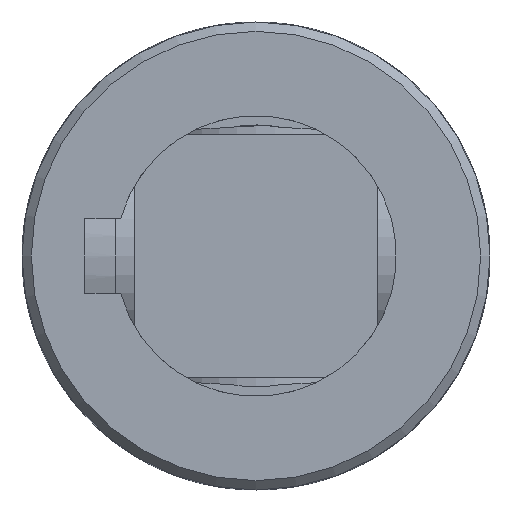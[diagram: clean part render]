
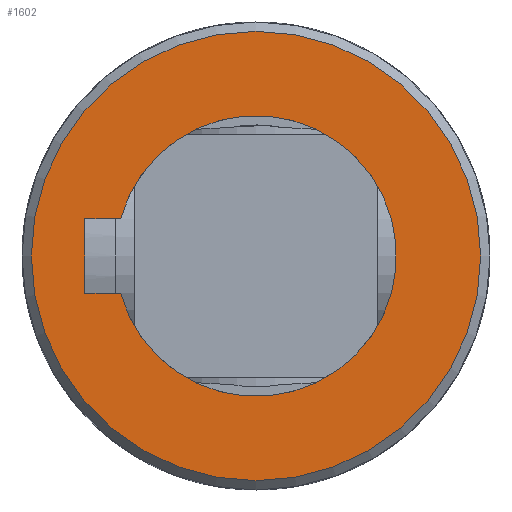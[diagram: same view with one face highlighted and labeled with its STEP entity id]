
A CAD part, front view. The second image highlights one B-rep face of the part: STEP entity #1602.
In plain terms, the highlighted planar face has unit normal (0, -1, 0).
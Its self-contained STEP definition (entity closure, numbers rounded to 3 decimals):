
#108=LINE('',#3138,#163);
#110=LINE('',#3154,#165);
#112=LINE('',#3158,#167);
#163=VECTOR('',#2099,3.843);
#165=VECTOR('',#2103,8.);
#167=VECTOR('',#2109,3.843);
#219=PLANE('',#1763);
#363=FACE_BOUND('',#581,.T.);
#446=FACE_OUTER_BOUND('',#580,.T.);
#580=EDGE_LOOP('',(#1398));
#581=EDGE_LOOP('',(#1399,#1400,#1401,#1402));
#659=CIRCLE('',#1745,15.);
#667=CIRCLE('',#1761,24.);
#793=VERTEX_POINT('',#3073);
#794=VERTEX_POINT('',#3075);
#804=VERTEX_POINT('',#3137);
#806=VERTEX_POINT('',#3153);
#809=VERTEX_POINT('',#3181);
#991=EDGE_CURVE('',#794,#793,#659,.T.);
#1004=EDGE_CURVE('',#804,#794,#108,.T.);
#1007=EDGE_CURVE('',#806,#804,#110,.T.);
#1010=EDGE_CURVE('',#793,#806,#112,.T.);
#1015=EDGE_CURVE('',#809,#809,#667,.T.);
#1398=ORIENTED_EDGE('',*,*,#1015,.F.);
#1399=ORIENTED_EDGE('',*,*,#1004,.T.);
#1400=ORIENTED_EDGE('',*,*,#991,.T.);
#1401=ORIENTED_EDGE('',*,*,#1010,.T.);
#1402=ORIENTED_EDGE('',*,*,#1007,.T.);
#1602=ADVANCED_FACE('',(#446,#363),#219,.F.);
#1745=AXIS2_PLACEMENT_3D('',#3076,#2080,#2081);
#1761=AXIS2_PLACEMENT_3D('',#3182,#2118,#2119);
#1763=AXIS2_PLACEMENT_3D('',#3390,#2126,#2127);
#2080=DIRECTION('center_axis',(0.,1.,0.));
#2081=DIRECTION('ref_axis',(-0.267,0.,0.964));
#2099=DIRECTION('',(0.,0.,1.));
#2103=DIRECTION('',(-1.,0.,0.));
#2109=DIRECTION('',(0.,0.,-1.));
#2118=DIRECTION('center_axis',(0.,1.,0.));
#2119=DIRECTION('ref_axis',(1.,0.,0.));
#2126=DIRECTION('center_axis',(0.,1.,0.));
#2127=DIRECTION('ref_axis',(0.,0.,1.));
#3073=CARTESIAN_POINT('',(4.,-78.5,-14.457));
#3075=CARTESIAN_POINT('',(-4.,-78.5,-14.457));
#3076=CARTESIAN_POINT('Origin',(0.,-78.5,0.));
#3137=CARTESIAN_POINT('',(-4.,-78.5,-18.3));
#3138=CARTESIAN_POINT('',(-4.,-78.5,-9.15));
#3153=CARTESIAN_POINT('',(4.,-78.5,-18.3));
#3154=CARTESIAN_POINT('',(2.,-78.5,-18.3));
#3158=CARTESIAN_POINT('',(4.,-78.5,-7.228));
#3181=CARTESIAN_POINT('',(-24.,-78.5,0.));
#3182=CARTESIAN_POINT('Origin',(0.,-78.5,0.));
#3390=CARTESIAN_POINT('Origin',(0.,-78.5,0.));
